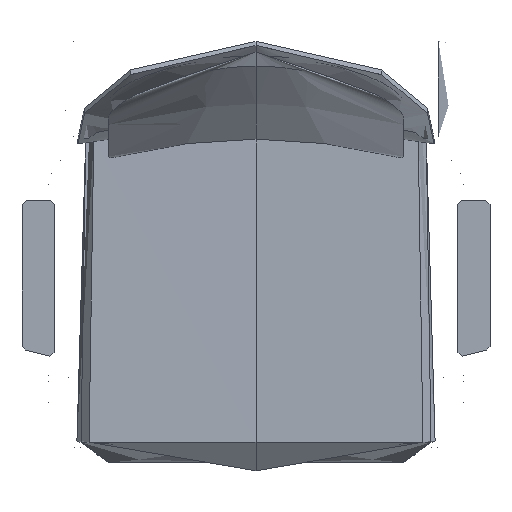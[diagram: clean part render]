
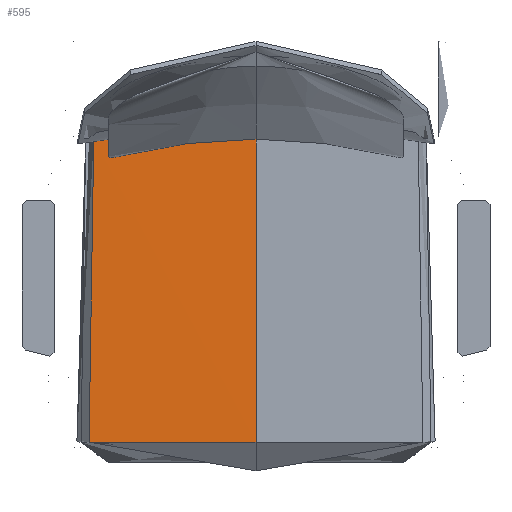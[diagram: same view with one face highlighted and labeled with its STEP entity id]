
A CAD part, top view. The second image highlights one B-rep face of the part: STEP entity #595.
In plain terms, the highlighted free-form (B-spline) face has degree [3, 3] with [4, 6] control points.
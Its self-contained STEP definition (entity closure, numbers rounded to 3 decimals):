
#595=ADVANCED_FACE('',(#1741),#21108,.T.);
#1741=FACE_OUTER_BOUND('',#2887,.T.);
#2887=EDGE_LOOP('',(#4599,#4600,#4601,#4602,#4603));
#4599=ORIENTED_EDGE('',*,*,#11208,.T.);
#4600=ORIENTED_EDGE('',*,*,#11196,.T.);
#4601=ORIENTED_EDGE('',*,*,#11197,.F.);
#4602=ORIENTED_EDGE('',*,*,#11207,.T.);
#4603=ORIENTED_EDGE('',*,*,#11215,.F.);
#11196=EDGE_CURVE('',#17876,#17878,#14676,.T.);
#11197=EDGE_CURVE('',#17877,#17878,#14677,.T.);
#11207=EDGE_CURVE('',#17877,#17884,#14687,.T.);
#11208=EDGE_CURVE('',#17886,#17876,#14688,.T.);
#11215=EDGE_CURVE('',#17886,#17884,#14474,.T.);
#14474=(
BOUNDED_CURVE()
B_SPLINE_CURVE(3,(#26536,#26537,#26538,#26539,#26540,#26541,#26542,#26543,
#26544,#26545,#26546,#26547,#26548,#26549,#26550,#26551,#26552,#26553,#26554,
#26555),.UNSPECIFIED.,.F.,.F.)
B_SPLINE_CURVE_WITH_KNOTS((4,3,3,1,1,1,1,1,1,1,3,4),(-0.392,
-0.39,6.301,10.816,15.904,21.689,
28.102,34.77,41.018,46.433,51.07,
56.446),.UNSPECIFIED.)
CURVE()
GEOMETRIC_REPRESENTATION_ITEM()
RATIONAL_B_SPLINE_CURVE((1.,1.,1.,1.,1.,1.,1.,1.,1.,1.,1.,
1.,1.,1.,1.,1.,1.,1.,1.,1.))
REPRESENTATION_ITEM('')
);
#14676=B_SPLINE_CURVE_WITH_KNOTS('',3,(#26300,#26301,#26302,#26303),
 .UNSPECIFIED.,.F.,.F.,(4,4),(0.,208.2),.UNSPECIFIED.);
#14677=B_SPLINE_CURVE_WITH_KNOTS('',3,(#26304,#26305,#26306,#26307,#26308,
#26309),.UNSPECIFIED.,.F.,.F.,(4,1,1,4),(-469.281,-336.575,
-192.091,-47.607),.UNSPECIFIED.);
#14687=B_SPLINE_CURVE_WITH_KNOTS('',3,(#26449,#26450,#26451,#26452),
 .UNSPECIFIED.,.F.,.F.,(4,4),(0.,169.177),.UNSPECIFIED.);
#14688=B_SPLINE_CURVE_WITH_KNOTS('',3,(#26453,#26454,#26455,#26456,#26457),
 .UNSPECIFIED.,.F.,.F.,(4,1,4),(235.672,614.063,616.504),
 .UNSPECIFIED.);
#17876=VERTEX_POINT('',#26270);
#17877=VERTEX_POINT('',#26271);
#17878=VERTEX_POINT('',#26272);
#17884=VERTEX_POINT('',#26278);
#17886=VERTEX_POINT('',#26280);
#21108=B_SPLINE_SURFACE_WITH_KNOTS('',3,3,((#24276,#24277,#24278,#24279,
#24280,#24281),(#24282,#24283,#24284,#24285,#24286,#24287),(#24288,#24289,
#24290,#24291,#24292,#24293),(#24294,#24295,#24296,#24297,#24298,#24299)),
 .UNSPECIFIED.,.F.,.F.,.F.,(4,4),(4,1,1,4),(0.,208.2),(47.607,
192.091,336.575,469.281),.UNSPECIFIED.);
#24276=CARTESIAN_POINT('',(-207.61,-200.8,469.081));
#24277=CARTESIAN_POINT('',(-206.89,-154.314,468.31));
#24278=CARTESIAN_POINT('',(-205.45,-61.344,466.768));
#24279=CARTESIAN_POINT('',(-203.349,74.323,464.518));
#24280=CARTESIAN_POINT('',(-201.968,163.504,463.038));
#24281=CARTESIAN_POINT('',(-201.307,206.2,462.33));
#24282=CARTESIAN_POINT('',(-138.406,-200.8,467.081));
#24283=CARTESIAN_POINT('',(-137.927,-164.428,466.478));
#24284=CARTESIAN_POINT('',(-136.967,-58.131,457.01));
#24285=CARTESIAN_POINT('',(-135.566,87.116,455.076));
#24286=CARTESIAN_POINT('',(-134.645,173.48,457.765));
#24287=CARTESIAN_POINT('',(-134.204,212.878,459.041));
#24288=CARTESIAN_POINT('',(-69.203,-200.8,466.081));
#24289=CARTESIAN_POINT('',(-68.963,-169.485,465.562));
#24290=CARTESIAN_POINT('',(-68.483,-56.525,452.131));
#24291=CARTESIAN_POINT('',(-67.783,93.513,450.355));
#24292=CARTESIAN_POINT('',(-67.323,178.468,455.129));
#24293=CARTESIAN_POINT('',(-67.102,216.217,457.396));
#24294=CARTESIAN_POINT('',(0.,-200.8,466.081));
#24295=CARTESIAN_POINT('',(0.,-169.485,465.562));
#24296=CARTESIAN_POINT('',(0.,-56.525,452.131));
#24297=CARTESIAN_POINT('',(0.,93.513,450.355));
#24298=CARTESIAN_POINT('',(0.,178.468,455.129));
#24299=CARTESIAN_POINT('',(0.,216.217,457.396));
#26270=CARTESIAN_POINT('',(-207.61,-200.8,469.081));
#26271=CARTESIAN_POINT('',(0.,216.217,457.396));
#26272=CARTESIAN_POINT('',(0.,-200.8,466.081));
#26278=CARTESIAN_POINT('',(-166.693,209.35,460.779));
#26280=CARTESIAN_POINT('',(-201.765,176.772,462.819));
#26300=CARTESIAN_POINT('',(-207.61,-200.8,469.081));
#26301=CARTESIAN_POINT('',(-138.406,-200.8,467.081));
#26302=CARTESIAN_POINT('',(-69.203,-200.8,466.081));
#26303=CARTESIAN_POINT('',(0.,-200.8,466.081));
#26304=CARTESIAN_POINT('',(0.,216.217,457.396));
#26305=CARTESIAN_POINT('',(0.,178.468,455.129));
#26306=CARTESIAN_POINT('',(0.,93.513,450.355));
#26307=CARTESIAN_POINT('',(0.,-56.525,452.131));
#26308=CARTESIAN_POINT('',(0.,-169.485,465.562));
#26309=CARTESIAN_POINT('',(0.,-200.8,466.081));
#26449=CARTESIAN_POINT('',(0.,216.217,457.396));
#26450=CARTESIAN_POINT('',(-55.652,216.219,457.396));
#26451=CARTESIAN_POINT('',(-111.239,213.917,458.528));
#26452=CARTESIAN_POINT('',(-166.693,209.35,460.779));
#26453=CARTESIAN_POINT('',(-201.765,176.772,462.819));
#26454=CARTESIAN_POINT('',(-203.697,51.693,464.897));
#26455=CARTESIAN_POINT('',(-205.651,-74.287,466.969));
#26456=CARTESIAN_POINT('',(-207.595,-199.785,469.083));
#26457=CARTESIAN_POINT('',(-207.61,-200.8,469.081));
#26536=CARTESIAN_POINT('',(-201.765,176.772,462.819));
#26537=CARTESIAN_POINT('',(-201.764,176.772,462.819));
#26538=CARTESIAN_POINT('',(-201.763,176.772,462.819));
#26539=CARTESIAN_POINT('',(-201.762,176.772,462.819));
#26540=CARTESIAN_POINT('',(-199.541,176.811,462.669));
#26541=CARTESIAN_POINT('',(-197.319,176.863,462.52));
#26542=CARTESIAN_POINT('',(-195.1,176.969,462.373));
#26543=CARTESIAN_POINT('',(-193.602,177.041,462.274));
#26544=CARTESIAN_POINT('',(-190.422,177.258,462.064));
#26545=CARTESIAN_POINT('',(-185.365,178.026,461.733));
#26546=CARTESIAN_POINT('',(-179.891,179.81,461.385));
#26547=CARTESIAN_POINT('',(-174.545,183.167,461.064));
#26548=CARTESIAN_POINT('',(-170.339,188.106,460.842));
#26549=CARTESIAN_POINT('',(-167.892,193.742,460.742));
#26550=CARTESIAN_POINT('',(-166.881,199.09,460.725));
#26551=CARTESIAN_POINT('',(-166.675,202.435,460.736));
#26552=CARTESIAN_POINT('',(-166.633,203.979,460.744));
#26553=CARTESIAN_POINT('',(-166.59,205.769,460.753));
#26554=CARTESIAN_POINT('',(-166.606,207.562,460.765));
#26555=CARTESIAN_POINT('',(-166.693,209.35,460.779));
